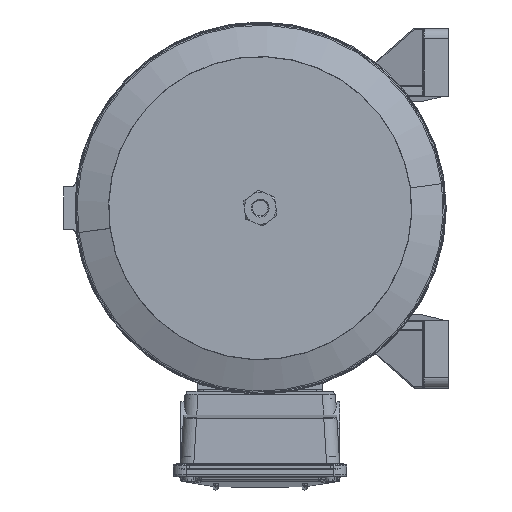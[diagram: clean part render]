
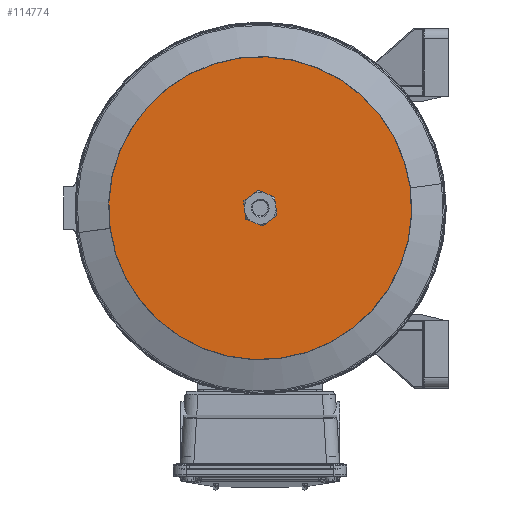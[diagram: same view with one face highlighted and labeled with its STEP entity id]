
A CAD part, left-side view. The second image highlights one B-rep face of the part: STEP entity #114774.
In plain terms, the highlighted planar face has unit normal (-1, 0, 0) as drawn and (0, -1, 0) by its records, which use the part's own axes.
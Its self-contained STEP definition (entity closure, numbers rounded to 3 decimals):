
#15822 = CARTESIAN_POINT ( 'NONE',  ( -13.5, 0., 0. ) ) ;
#16054 = ORIENTED_EDGE ( 'NONE', *, *, #95383, .T. ) ;
#17579 = ORIENTED_EDGE ( 'NONE', *, *, #27437, .F. ) ;
#20442 = AXIS2_PLACEMENT_3D ( 'NONE', #112282, #44706, #123638 ) ;
#27437 = EDGE_CURVE ( 'NONE', #40604, #88098, #71328, .T. ) ;
#31928 = FACE_OUTER_BOUND ( 'NONE', #98599, .T. ) ;
#32084 = EDGE_LOOP ( 'NONE', ( #47597, #16054 ) ) ;
#34548 = CARTESIAN_POINT ( 'NONE',  ( 0., 0., 0. ) ) ;
#39444 = PLANE ( 'NONE',  #119678 ) ;
#40604 = VERTEX_POINT ( 'NONE', #65674 ) ;
#44706 = DIRECTION ( 'NONE',  ( 0., 1., 0. ) ) ;
#45842 = DIRECTION ( 'NONE',  ( -1., 0., 0. ) ) ;
#47597 = ORIENTED_EDGE ( 'NONE', *, *, #62354, .T. ) ;
#50702 = DIRECTION ( 'NONE',  ( 1., 0., 0. ) ) ;
#55758 = DIRECTION ( 'NONE',  ( 0., 1., 0. ) ) ;
#61613 = CARTESIAN_POINT ( 'NONE',  ( 0., 0., 0. ) ) ;
#62354 = EDGE_CURVE ( 'NONE', #133053, #131788, #91232, .T. ) ;
#65674 = CARTESIAN_POINT ( 'NONE',  ( 145., 0., 0. ) ) ;
#71328 = CIRCLE ( 'NONE', #101711, 145. ) ;
#72918 = DIRECTION ( 'NONE',  ( -1., 0., 0. ) ) ;
#84785 = FACE_BOUND ( 'NONE', #32084, .T. ) ;
#88098 = VERTEX_POINT ( 'NONE', #103523 ) ;
#91232 = CIRCLE ( 'NONE', #101279, 13.5 ) ;
#95383 = EDGE_CURVE ( 'NONE', #131788, #133053, #96701, .T. ) ;
#96323 = CARTESIAN_POINT ( 'NONE',  ( 13.5, 0., 0. ) ) ;
#96701 = CIRCLE ( 'NONE', #101668, 13.5 ) ;
#98599 = EDGE_LOOP ( 'NONE', ( #132232, #17579 ) ) ;
#100912 = CIRCLE ( 'NONE', #20442, 145. ) ;
#101279 = AXIS2_PLACEMENT_3D ( 'NONE', #61613, #140464, #72918 ) ;
#101668 = AXIS2_PLACEMENT_3D ( 'NONE', #123354, #55758, #134677 ) ;
#101711 = AXIS2_PLACEMENT_3D ( 'NONE', #34548, #113434, #45842 ) ;
#103523 = CARTESIAN_POINT ( 'NONE',  ( -145., 0., 0. ) ) ;
#106348 = CARTESIAN_POINT ( 'NONE',  ( -13.5, 0., 0. ) ) ;
#112282 = CARTESIAN_POINT ( 'NONE',  ( 0., 0., 0. ) ) ;
#113434 = DIRECTION ( 'NONE',  ( 0., 1., 0. ) ) ;
#114774 = ADVANCED_FACE ( 'NONE', ( #84785, #31928 ), #39444, .T. ) ;
#118309 = DIRECTION ( 'NONE',  ( 0., -1., 0. ) ) ;
#119678 = AXIS2_PLACEMENT_3D ( 'NONE', #15822, #118309, #50702 ) ;
#123354 = CARTESIAN_POINT ( 'NONE',  ( 0., 0., 0. ) ) ;
#123638 = DIRECTION ( 'NONE',  ( -1., 0., 0. ) ) ;
#131788 = VERTEX_POINT ( 'NONE', #96323 ) ;
#132232 = ORIENTED_EDGE ( 'NONE', *, *, #140738, .F. ) ;
#133053 = VERTEX_POINT ( 'NONE', #106348 ) ;
#134677 = DIRECTION ( 'NONE',  ( -1., 0., 0. ) ) ;
#140464 = DIRECTION ( 'NONE',  ( 0., 1., 0. ) ) ;
#140738 = EDGE_CURVE ( 'NONE', #88098, #40604, #100912, .T. ) ;
